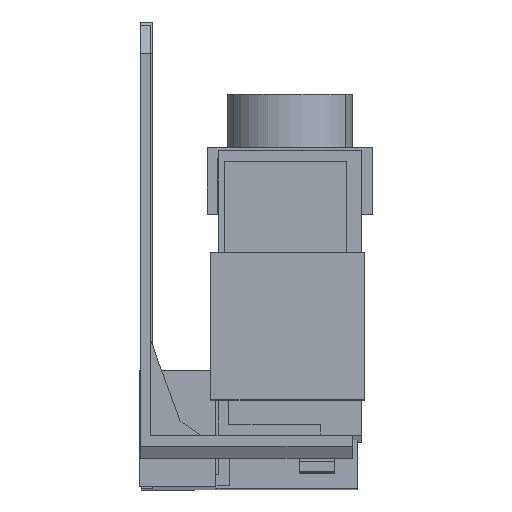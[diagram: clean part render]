
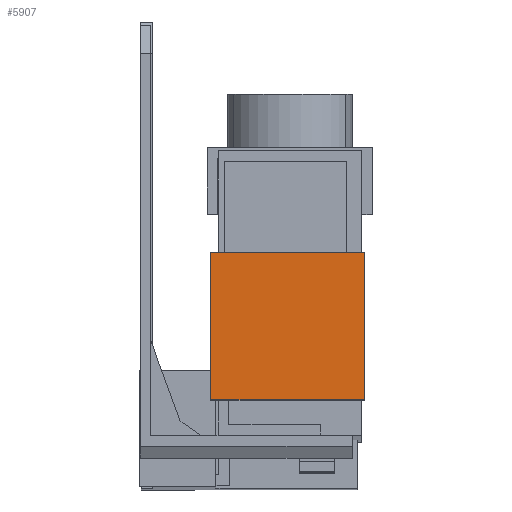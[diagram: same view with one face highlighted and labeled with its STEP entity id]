
A CAD part, front view. The second image highlights one B-rep face of the part: STEP entity #5907.
In plain terms, the highlighted planar face has unit normal (0, -1, 0.003).
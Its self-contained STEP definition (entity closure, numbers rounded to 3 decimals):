
#152 = EDGE_CURVE ( 'NONE', #703, #697, #3992, .T. ) ;
#252 = EDGE_CURVE ( 'NONE', #697, #696, #4270, .T. ) ;
#357 = EDGE_CURVE ( 'NONE', #696, #704, #4465, .T. ) ;
#463 = EDGE_CURVE ( 'NONE', #703, #704, #4615, .T. ) ;
#696 = VERTEX_POINT ( 'NONE', #4036 ) ;
#697 = VERTEX_POINT ( 'NONE', #4021 ) ;
#703 = VERTEX_POINT ( 'NONE', #3460 ) ;
#704 = VERTEX_POINT ( 'NONE', #3462 ) ;
#758 = CARTESIAN_POINT ( 'NONE',  ( 10.05, -31.509, -40.315 ) ) ;
#1271 = CARTESIAN_POINT ( 'NONE',  ( 9.3, -31.452, -19.316 ) ) ;
#1272 = DIRECTION ( 'NONE',  ( 1., 0., 0. ) ) ;
#1417 = DIRECTION ( 'NONE',  ( 0., 0.003, 1. ) ) ;
#1561 = CARTESIAN_POINT ( 'NONE',  ( 31.95, -31.452, -19.316 ) ) ;
#1566 = DIRECTION ( 'NONE',  ( 0., -0.003, -1. ) ) ;
#1772 = AXIS2_PLACEMENT_3D ( 'NONE', #5562, #5568, #5569 ) ;
#2073 = EDGE_LOOP ( 'NONE', ( #2414, #2415, #2416, #2417 ) ) ;
#2414 = ORIENTED_EDGE ( 'NONE', *, *, #252, .F. ) ;
#2415 = ORIENTED_EDGE ( 'NONE', *, *, #152, .F. ) ;
#2416 = ORIENTED_EDGE ( 'NONE', *, *, #463, .T. ) ;
#2417 = ORIENTED_EDGE ( 'NONE', *, *, #357, .F. ) ;
#3189 = CARTESIAN_POINT ( 'NONE',  ( 9.3, -31.509, -40.315 ) ) ;
#3191 = DIRECTION ( 'NONE',  ( 1., 0., 0. ) ) ;
#3460 = CARTESIAN_POINT ( 'NONE',  ( 10.05, -31.509, -40.315 ) ) ;
#3462 = CARTESIAN_POINT ( 'NONE',  ( 31.95, -31.509, -40.315 ) ) ;
#3992 = LINE ( 'NONE', #758, #4003 ) ;
#4003 = VECTOR ( 'NONE', #1417, 1000. ) ;
#4021 = CARTESIAN_POINT ( 'NONE',  ( 10.05, -31.452, -19.316 ) ) ;
#4036 = CARTESIAN_POINT ( 'NONE',  ( 31.95, -31.452, -19.316 ) ) ;
#4270 = LINE ( 'NONE', #1271, #4272 ) ;
#4272 = VECTOR ( 'NONE', #1272, 1000. ) ;
#4465 = LINE ( 'NONE', #1561, #4474 ) ;
#4474 = VECTOR ( 'NONE', #1566, 1000. ) ;
#4615 = LINE ( 'NONE', #3189, #4616 ) ;
#4616 = VECTOR ( 'NONE', #3191, 1000. ) ;
#5149 = FACE_OUTER_BOUND ( 'NONE', #2073, .T. ) ;
#5559 = PLANE ( 'NONE',  #1772 ) ;
#5562 = CARTESIAN_POINT ( 'NONE',  ( 9.3, -31.509, -40.315 ) ) ;
#5568 = DIRECTION ( 'NONE',  ( 0., -1., 0.003 ) ) ;
#5569 = DIRECTION ( 'NONE',  ( -1., 0., 0. ) ) ;
#5907 = ADVANCED_FACE ( 'NONE', ( #5149 ), #5559, .T. ) ;
